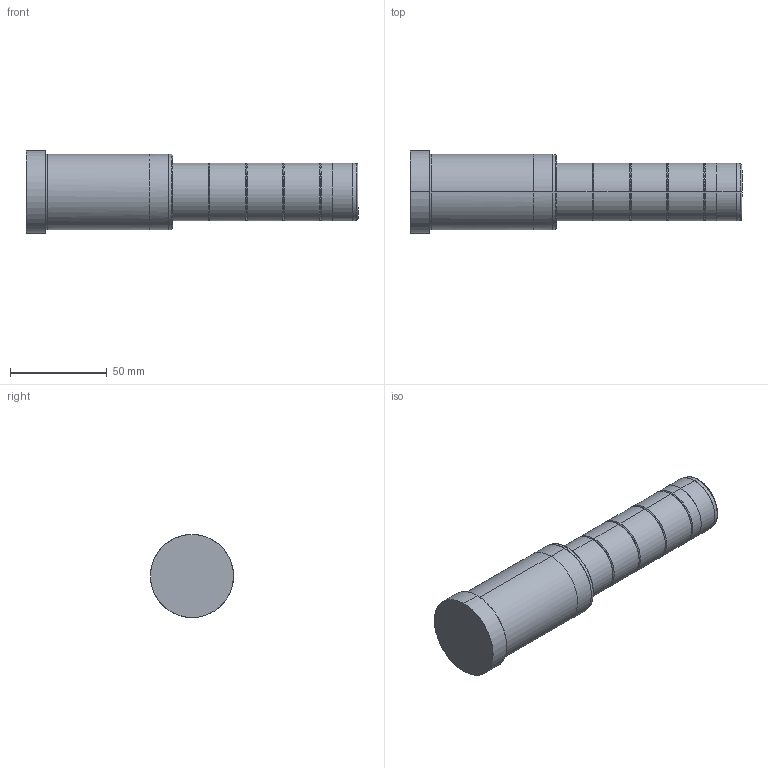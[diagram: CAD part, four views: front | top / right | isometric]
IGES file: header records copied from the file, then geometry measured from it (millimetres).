
Start section: Missler Software BP 521, 31674 Labege Cedex, France Tel   : +33 (0)5 61 00 03 00 Fax   : +33 (0)5 61 00 03 03 Email : sup.topsolid@topsolid.com
Global section: file name: D:\Cuma\Düzeltme\D02_30x76x96.igs; native system: TopSolid v605540 Missler Software; preprocessor: IGES preprocessor v100000; author: PEGASUS; date: 100302.091721; units: millimetre
Bounding box: 172 x 43 x 43 mm (x, y, z)
Surface area: 21543.6 mm2 (no closed solid volume)
Topology: 0 solids, 0 shells, 52 faces, 518 edges, 518 vertices
Faces by surface type: bspline 52
